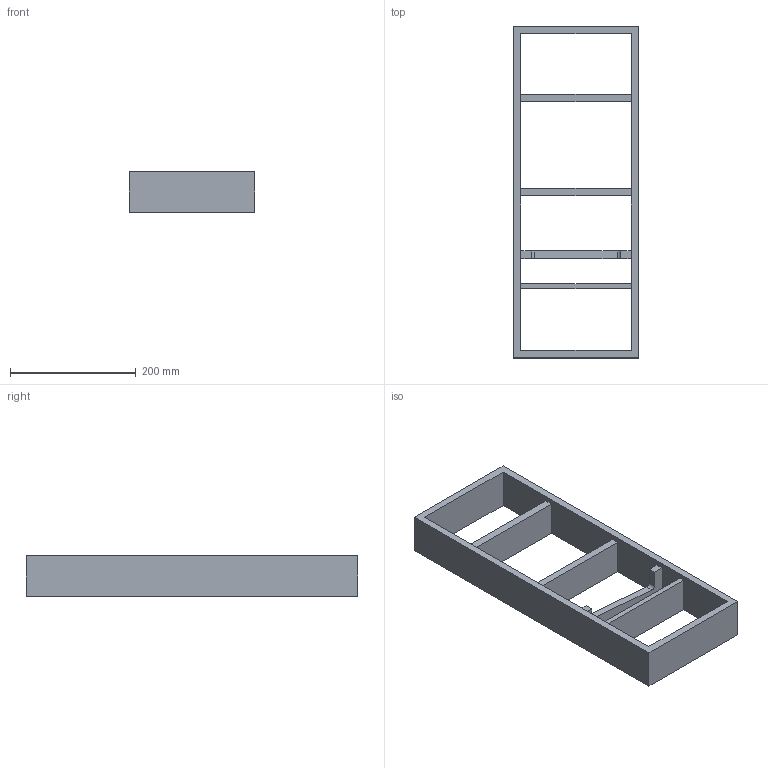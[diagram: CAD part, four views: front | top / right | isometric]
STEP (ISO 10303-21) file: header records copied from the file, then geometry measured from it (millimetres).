
FILE_DESCRIPTION (( 'STEP AP214' ), '1' );
FILE_NAME ('Vario Messer_Modul_H65_NL550_B200_ZE_Alu_Buche.step', '2010-10-07T06:11:54', ( 'grass' ), ( '' ), 'SwSTEP 2.0', 'SolidWorks 2010', '' );
FILE_SCHEMA (( 'AUTOMOTIVE_DESIGN' ));
Length unit declared in the file: millimetre
Products named in the file (1): Vario Messer_Modul_H65_NL550_B200_ZE_Alu_Buche
Bounding box: 200 x 529 x 65 mm (x, y, z)
Volume: 1497034.9 mm3; surface area: 301083.5 mm2
Topology: 1 solids, 1 shells, 28 faces, 90 edges, 60 vertices
Faces by surface type: plane 26, cylinder 2
Entity records: 1032 total; most frequent: ORIENTED_EDGE 180, CARTESIAN_POINT 179, DIRECTION 152, EDGE_CURVE 90, VECTOR 86, LINE 86, VERTEX_POINT 60, EDGE_LOOP 34
